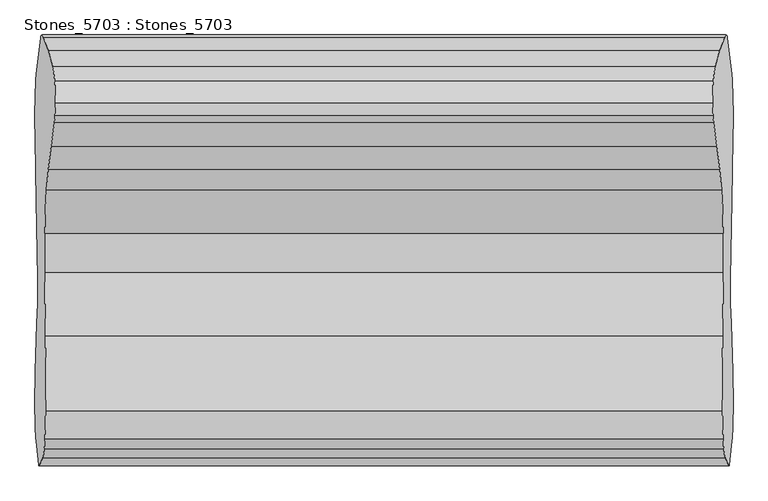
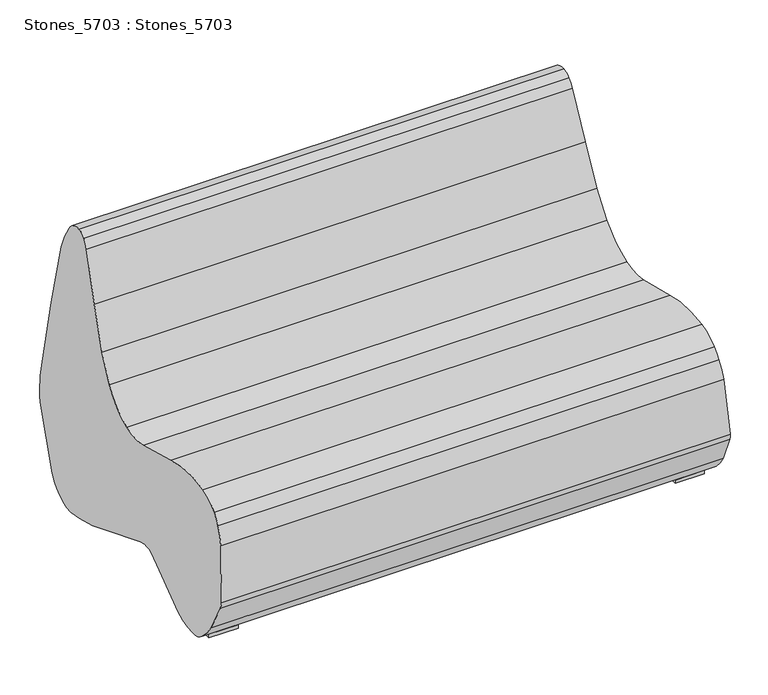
"""IFC4 building model written with IfcOpenShell, lengths in millimetres: furniture geometry, Stones_5703 : Stones_5703."""

from ifc_helpers import new_model, si_unit, frame, origin, origin_with_axes, place, context, project, spatial, polyline, ellipse_curve, outline, extrude, source, transform, mapped, element, save
from ifc_brep_helpers import plane_surface, cylinder_surface, revolved_surface, advanced_brep


def stones_5703_stones_5703_758f9897(model_context):
    return source(origin(), model_context, "Body", "SolidModel", [
        advanced_brep(
        [(695.3110174, -89.4815743, 39.7011175), (695.8233895, -98.5477213, 29.9244759), (-695.8233895, -98.5477213, 29.9244759), (-695.3110174, -89.4815743, 39.7011175), (694.2904864, -76.3119844, 59.1740089), (-694.2904864, -76.3119844, 59.1740089), (686.0286103, -5.8199936, 216.8199959), (-686.0286103, -5.8199936, 216.8199959), (684.5680628, 0.0, 244.6889021), (-684.5680628, 0.0, 244.6889021), (680.1478804, -3.4330027, 329.0310064), (-680.1478804, -3.4330027, 329.0310064), (670.5753916, -30.0880254, 511.6849737), (-670.5753916, -30.0880254, 511.6849737), (661.4227412, -61.5019873, 686.3279474), (-661.4227412, -61.5019873, 686.3279474), (657.7210736, -90.9500081, 756.9599733), (-657.7210736, -90.9500081, 756.9599733), (656.513597, -134.8483783, 780.0), (-656.513597, -134.8483783, 780.0), (657.0881683, -159.273999, 769.0365254), (-657.0881683, -159.273999, 769.0365254), (658.2353507, -173.6870001, 747.1469822), (-658.2353507, -173.6870001, 747.1469822), (664.8943365, -221.2533235, 620.0859628), (-664.8943365, -221.2533235, 620.0859628), (670.5063431, -267.1055076, 513.0024987), (-670.5063431, -267.1055076, 513.0024987), (674.0739166, -308.3042284, 444.9291411), (-674.0739166, -308.3042284, 444.9291411), (677.5681088, -395.6820072, 378.2559814), (-677.5681088, -395.6820072, 378.2559814), (677.8416238, -473.037008, 373.0370049), (-677.8416238, -473.037008, 373.0370049), (676.1026296, -599.6220026, 406.2189912), (-676.1026296, -599.6220026, 406.2189912), (675.7171703, -749.4260037, 413.5739928), (-675.7171703, -749.4260037, 413.5739928), (677.3106294, -805.643993, 383.168981), (-677.3106294, -805.643993, 383.168981), (678.6924678, -825.7290327, 356.8019341), (-678.6924678, -825.7290327, 356.8019341), (681.1027502, -843.0850216, 310.8110066), (-681.1027502, -843.0850216, 310.8110066), (688.9563767, -860.0, 160.9548844), (-688.9563767, -860.0, 160.9548844), (689.8386269, -857.073153, 144.1205484), (-689.8386269, -857.073153, 144.1205484), (693.9128025, -819.9294051, 66.3806469), (-693.9128025, -819.9294051, 66.3806469), (696.2895288, -783.4470012, 21.0300072), (-696.2895288, -783.4470012, 21.0300072), (697.1718138, -739.5440124, 4.1950079), (-697.1718138, -739.5440124, 4.1950079), (696.2520049, -670.8280033, 21.746007), (-696.2520049, -670.8280033, 21.746007), (693.0613141, -575.6870128, 82.6280143), (-693.0613141, -575.6870128, 82.6280143), (691.7174739, -534.5275066, 108.2700129), (-691.7174739, -534.5275066, 108.2700129), (691.4466827, -504.6660086, 113.4370167), (-691.4466827, -504.6660086, 113.4370167), (691.6770162, -484.561163, 109.0419911), (-691.6770162, -484.561163, 109.0419911), (694.7945968, -330.1980137, 49.5550103), (-694.7945968, -330.1980137, 49.5550103), (696.8694213, -206.3195893, 9.9649997), (-696.8694213, -206.3195893, 9.9649997), (697.200074, -168.3434362, 3.6557696), (-697.200074, -168.3434362, 3.6557696)],
        [
            (0, 1, ellipse_curve(frame((692.1171071, -165.0055036, 100.6445574), z_axis=(-0.998629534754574, 0.0, -0.05233595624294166), x_axis=(0.0523359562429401, 0.0, -0.9986295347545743)), 97.1793904, 97.0462094)),
            (1, 2),
            (2, 3, ellipse_curve(frame((-692.1171071, -165.0055036, 100.6445574), z_axis=(0.9986295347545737, 0.0, -0.05233595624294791), x_axis=(0.05233595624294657, 0.0, 0.9986295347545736)), 97.1793904, 97.0462094)),
            (3, 0),
            (4, 0, ellipse_curve(frame((690.7175279, -198.1002691, 127.3501177), z_axis=(-0.998629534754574, 0.0, -0.05233595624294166), x_axis=(0.0523359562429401, 0.0, -0.9986295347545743)), 139.7636305, 139.5720893)),
            (3, 5, ellipse_curve(frame((-690.7175279, -198.1002691, 127.3501177), z_axis=(0.9986295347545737, 0.0, -0.05233595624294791), x_axis=(0.05233595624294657, 0.0, 0.9986295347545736)), 139.7636305, 139.5720893)),
            (5, 4),
            (6, 4, ellipse_curve(frame((669.6555626, -916.0209114, 529.2363581), z_axis=(-0.998629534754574, 0.0, -0.05233595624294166), x_axis=(0.0523359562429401, 0.0, -0.9986295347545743)), 963.645793, 962.3251499)),
            (5, 7, ellipse_curve(frame((-669.6555626, -916.0209114, 529.2363581), z_axis=(0.9986295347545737, 0.0, -0.05233595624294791), x_axis=(0.05233595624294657, 0.0, 0.9986295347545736)), 963.645793, 962.3251499)),
            (7, 6),
            (8, 6, ellipse_curve(frame((684.0823172, -114.0171861, 253.9574813), z_axis=(-0.998629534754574, 0.0, -0.05233595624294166), x_axis=(0.0523359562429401, 0.0, -0.9986295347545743)), 114.5502793, 114.3932922)),
            (7, 9, ellipse_curve(frame((-684.0823172, -114.0171861, 253.9574813), z_axis=(0.9986295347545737, 0.0, -0.05233595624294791), x_axis=(0.05233595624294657, 0.0, 0.9986295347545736)), 114.5502793, 114.3932922)),
            (9, 8),
            (10, 8, ellipse_curve(frame((683.0929265, -346.2529959, 272.8361791), z_axis=(-0.998629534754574, 0.0, -0.05233595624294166), x_axis=(0.0523359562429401, 0.0, -0.9986295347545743)), 347.8719196, 347.3951732)),
            (9, 11, ellipse_curve(frame((-683.0929265, -346.2529959, 272.8361791), z_axis=(0.9986295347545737, 0.0, -0.05233595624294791), x_axis=(0.05233595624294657, 0.0, 0.9986295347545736)), 347.8719196, 347.3951732)),
            (11, 10),
            (12, 10, ellipse_curve(frame((635.6022598, 5181.9287288, 1179.012083), z_axis=(0.998629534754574, 0.0, 0.05233595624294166), x_axis=(-0.0523359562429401, 0.0, 0.9986295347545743)), 5261.7752024, 5254.5641224)),
            (11, 13, ellipse_curve(frame((-635.6022598, 5181.9287288, 1179.012083), z_axis=(-0.9986295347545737, 0.0, 0.05233595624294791), x_axis=(-0.05233595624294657, 0.0, -0.9986295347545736)), 5261.7752024, 5254.5641224)),
            (13, 12),
            (14, 12, ellipse_curve(frame((682.2440724, -1769.0618125, 289.0332815), z_axis=(-0.998629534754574, 0.0, -0.05233595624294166), x_axis=(0.0523359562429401, 0.0, -0.9986295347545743)), 1755.5755444, 1753.1695892)),
            (13, 15, ellipse_curve(frame((-682.2440724, -1769.0618125, 289.0332815), z_axis=(0.9986295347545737, 0.0, -0.05233595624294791), x_axis=(0.05233595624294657, 0.0, 0.9986295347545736)), 1755.5755444, 1753.1695892)),
            (15, 14),
            (16, 14, ellipse_curve(frame((664.1661541, -286.4896035, 633.9805107), z_axis=(-0.998629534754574, 0.0, -0.05233595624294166), x_axis=(0.0523359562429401, 0.0, -0.9986295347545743)), 231.3141543, 230.9971463)),
            (15, 17, ellipse_curve(frame((-664.1661541, -286.4896035, 633.9805107), z_axis=(0.9986295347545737, 0.0, -0.05233595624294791), x_axis=(0.05233595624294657, 0.0, 0.9986295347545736)), 231.3141543, 230.9971463)),
            (17, 16),
            (18, 16, ellipse_curve(frame((659.0984884, -132.7398879, 730.6773325), z_axis=(-0.998629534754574, 0.0, -0.05233595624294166), x_axis=(0.0523359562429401, 0.0, -0.9986295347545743)), 49.4354644, 49.3677148)),
            (17, 19, ellipse_curve(frame((-659.0984884, -132.7398879, 730.6773325), z_axis=(0.9986295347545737, 0.0, -0.05233595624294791), x_axis=(0.05233595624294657, 0.0, 0.9986295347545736)), 49.4354644, 49.3677148)),
            (19, 18),
            (20, 18, ellipse_curve(frame((658.4071949, -133.3037746, 743.8679997), z_axis=(-0.998629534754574, 0.0, -0.05233595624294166), x_axis=(0.0523359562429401, 0.0, -0.9986295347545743)), 36.2146312, 36.1650003)),
            (19, 21, ellipse_curve(frame((-658.4071949, -133.3037746, 743.8679997), z_axis=(0.9986295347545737, 0.0, -0.05233595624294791), x_axis=(0.05233595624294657, 0.0, 0.9986295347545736)), 36.2146312, 36.1650003)),
            (21, 20),
            (22, 20, ellipse_curve(frame((659.6530779, -108.7736674, 720.0951349), z_axis=(-0.998629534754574, 0.0, -0.05233595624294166), x_axis=(0.0523359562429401, 0.0, -0.9986295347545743)), 70.4210659, 70.3245562)),
            (21, 23, ellipse_curve(frame((-659.6530779, -108.7736674, 720.0951349), z_axis=(0.9986295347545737, 0.0, -0.05233595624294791), x_axis=(0.05233595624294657, 0.0, 0.9986295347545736)), 70.4210659, 70.3245562)),
            (23, 22),
            (24, 22, ellipse_curve(frame((695.5639623, 1535.4743364, 34.8746403), z_axis=(-0.998629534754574, 0.0, -0.05233595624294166), x_axis=(0.0523359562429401, 0.0, -0.9986295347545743)), 1854.17938, 1851.6382916)),
            (23, 25, ellipse_curve(frame((-695.5639623, 1535.4743364, 34.8746403), z_axis=(0.9986295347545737, 0.0, -0.05233595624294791), x_axis=(0.05233595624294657, 0.0, 0.9986295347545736)), 1854.17938, 1851.6382916)),
            (25, 24),
            (26, 24, ellipse_curve(frame((653.2587869, -887.7267892, 842.1054751), z_axis=(0.998629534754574, 0.0, 0.05233595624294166), x_axis=(-0.0523359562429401, 0.0, 0.9986295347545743)), 703.445039, 702.4809921)),
            (25, 27, ellipse_curve(frame((-653.2587869, -887.7267892, 842.1054751), z_axis=(-0.9986295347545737, 0.0, 0.05233595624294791), x_axis=(-0.05233595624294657, 0.0, -0.9986295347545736)), 703.445039, 702.4809921)),
            (27, 26),
            (28, 26, ellipse_curve(frame((653.2587869, -887.7267892, 842.1054751), z_axis=(0.998629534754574, 0.0, 0.05233595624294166), x_axis=(-0.0523359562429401, 0.0, 0.9986295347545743)), 703.445039, 702.4809921)),
            (27, 29, ellipse_curve(frame((-653.2587869, -887.7267892, 842.1054751), z_axis=(-0.9986295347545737, 0.0, 0.05233595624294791), x_axis=(-0.05233595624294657, 0.0, -0.9986295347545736)), 703.445039, 702.4809921)),
            (29, 28),
            (30, 28, ellipse_curve(frame((668.8673935, -453.2361586, 544.275519), z_axis=(0.998629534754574, 0.0, 0.05233595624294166), x_axis=(-0.0523359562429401, 0.0, 0.9986295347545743)), 175.9538792, 175.7127405)),
            (29, 31, ellipse_curve(frame((-668.8673935, -453.2361586, 544.275519), z_axis=(-0.9986295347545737, 0.0, 0.05233595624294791), x_axis=(-0.05233595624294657, 0.0, -0.9986295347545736)), 175.9538792, 175.7127405)),
            (31, 30),
            (32, 30, ellipse_curve(frame((670.2751071, -443.9243084, 517.4147448), z_axis=(0.998629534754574, 0.0, 0.05233595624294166), x_axis=(-0.0523359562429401, 0.0, 0.9986295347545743)), 147.4857996, 147.2836754)),
            (31, 33, ellipse_curve(frame((-670.2751071, -443.9243084, 517.4147448), z_axis=(-0.9986295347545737, 0.0, 0.05233595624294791), x_axis=(-0.05233595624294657, 0.0, -0.9986295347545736)), 147.4857996, 147.2836754)),
            (33, 32),
            (34, 32, ellipse_curve(frame((619.2373546, -247.5530042, 1491.2730764), z_axis=(0.998629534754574, 0.0, 0.05233595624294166), x_axis=(-0.0523359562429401, 0.0, 0.9986295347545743)), 1142.30865, 1140.7431557)),
            (33, 35, ellipse_curve(frame((-619.2373546, -247.5530042, 1491.2730764), z_axis=(-0.9986295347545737, 0.0, 0.05233595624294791), x_axis=(-0.05233595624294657, 0.0, -0.9986295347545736)), 1142.30865, 1140.7431557)),
            (35, 34),
            (36, 34, ellipse_curve(frame((690.391966, -688.091325, 133.5622105), z_axis=(-0.998629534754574, 0.0, -0.05233595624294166), x_axis=(0.0523359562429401, 0.0, -0.9986295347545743)), 287.0439394, 286.6505556)),
            (35, 37, ellipse_curve(frame((-690.391966, -688.091325, 133.5622105), z_axis=(0.9986295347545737, 0.0, -0.05233595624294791), x_axis=(0.05233595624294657, 0.0, 0.9986295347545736)), 287.0439394, 286.6505556)),
            (37, 36),
            (38, 36, ellipse_curve(frame((681.6340298, -724.6959368, 300.6735873), z_axis=(-0.998629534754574, 0.0, -0.05233595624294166), x_axis=(0.0523359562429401, 0.0, -0.9986295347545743)), 115.7357626, 115.5771508)),
            (37, 39, ellipse_curve(frame((-681.6340298, -724.6959368, 300.6735873), z_axis=(0.9986295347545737, 0.0, -0.05233595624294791), x_axis=(0.05233595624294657, 0.0, 0.9986295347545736)), 115.7357626, 115.5771508)),
            (39, 38),
            (40, 38, ellipse_curve(frame((681.6340298, -724.6959368, 300.6735873), z_axis=(-0.998629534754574, 0.0, -0.05233595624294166), x_axis=(0.0523359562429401, 0.0, -0.9986295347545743)), 115.7357626, 115.5771508)),
            (39, 41, ellipse_curve(frame((-681.6340298, -724.6959368, 300.6735873), z_axis=(0.9986295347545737, 0.0, -0.05233595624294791), x_axis=(0.05233595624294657, 0.0, 0.9986295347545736)), 115.7357626, 115.5771508)),
            (41, 40),
            (42, 40, ellipse_curve(frame((682.9854227, -678.2799832, 274.8874751), z_axis=(-0.998629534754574, 0.0, -0.05233595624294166), x_axis=(0.0523359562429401, 0.0, -0.9986295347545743)), 168.9063177, 168.6748374)),
            (41, 43, ellipse_curve(frame((-682.9854227, -678.2799832, 274.8874751), z_axis=(0.9986295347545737, 0.0, -0.05233595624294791), x_axis=(0.05233595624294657, 0.0, 0.9986295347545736)), 168.9063177, 168.6748374)),
            (43, 42),
            (44, 42, ellipse_curve(frame((689.350579, -121.0881092, 153.4330579), z_axis=(-0.998629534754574, 0.0, -0.05233595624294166), x_axis=(0.0523359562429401, 0.0, -0.9986295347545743)), 739.9642697, 738.9501744)),
            (43, 45, ellipse_curve(frame((-689.350579, -121.0881092, 153.4330579), z_axis=(0.9986295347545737, 0.0, -0.05233595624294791), x_axis=(0.05233595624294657, 0.0, 0.9986295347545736)), 739.9642697, 738.9501744)),
            (45, 44),
            (46, 44, ellipse_curve(frame((688.9815136, -812.8823189, 160.4752453), z_axis=(-0.998629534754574, 0.0, -0.05233595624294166), x_axis=(0.0523359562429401, 0.0, -0.9986295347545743)), 47.1847874, 47.1201223)),
            (45, 47, ellipse_curve(frame((-688.9815136, -812.8823189, 160.4752453), z_axis=(0.9986295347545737, 0.0, -0.05233595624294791), x_axis=(0.05233595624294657, 0.0, 0.9986295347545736)), 47.1847874, 47.1201223)),
            (47, 46),
            (48, 46, ellipse_curve(frame((681.2406951, -413.7831485, 308.1788605), z_axis=(-0.998629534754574, 0.0, -0.05233595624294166), x_axis=(0.0523359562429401, 0.0, -0.9986295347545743)), 473.3231464, 472.6744735)),
            (47, 49, ellipse_curve(frame((-681.2406951, -413.7831485, 308.1788605), z_axis=(0.9986295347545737, 0.0, -0.05233595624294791), x_axis=(0.05233595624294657, 0.0, 0.9986295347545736)), 473.3231464, 472.6744735)),
            (49, 48),
            (50, 48, ellipse_curve(frame((688.3398114, -641.3127469, 172.7196521), z_axis=(-0.998629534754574, 0.0, -0.05233595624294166), x_axis=(0.0523359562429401, 0.0, -0.9986295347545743)), 208.1599849, 207.8747089)),
            (49, 51, ellipse_curve(frame((-688.3398114, -641.3127469, 172.7196521), z_axis=(0.9986295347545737, 0.0, -0.05233595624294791), x_axis=(0.05233595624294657, 0.0, 0.9986295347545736)), 208.1599849, 207.8747089)),
            (51, 50),
            (52, 50, ellipse_curve(frame((693.9056535, -740.8253182, 66.5170575), z_axis=(-0.998629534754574, 0.0, -0.05233595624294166), x_axis=(0.0523359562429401, 0.0, -0.9986295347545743)), 62.4207651, 62.3352196)),
            (51, 53, ellipse_curve(frame((-693.9056535, -740.8253182, 66.5170575), z_axis=(0.9986295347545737, 0.0, -0.05233595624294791), x_axis=(0.05233595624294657, 0.0, 0.9986295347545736)), 62.4207651, 62.3352196)),
            (53, 52),
            (54, 52, ellipse_curve(frame((689.0046476, -742.7479694, 160.0338219), z_axis=(-0.998629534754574, 0.0, -0.05233595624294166), x_axis=(0.0523359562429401, 0.0, -0.9986295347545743)), 156.0856562, 155.8717463)),
            (53, 55, ellipse_curve(frame((-689.0046476, -742.7479694, 160.0338219), z_axis=(0.9986295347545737, 0.0, -0.05233595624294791), x_axis=(0.05233595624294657, 0.0, 0.9986295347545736)), 156.0856562, 155.8717463)),
            (55, 54),
            (56, 54, ellipse_curve(frame((666.9297795, -961.8104094, 581.2473981), z_axis=(-0.998629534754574, 0.0, -0.05233595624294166), x_axis=(0.0523359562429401, 0.0, -0.9986295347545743)), 631.5100276, 630.644565)),
            (55, 57, ellipse_curve(frame((-666.9297795, -961.8104094, 581.2473981), z_axis=(0.9986295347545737, 0.0, -0.05233595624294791), x_axis=(0.05233595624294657, 0.0, 0.9986295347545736)), 631.5100276, 630.644565)),
            (57, 56),
            (58, 56, ellipse_curve(frame((702.950332, -429.5654295, -106.0656895), z_axis=(0.998629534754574, 0.0, 0.05233595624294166), x_axis=(-0.0523359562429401, 0.0, 0.9986295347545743)), 238.9838219, 238.6563029)),
            (57, 59, ellipse_curve(frame((-702.950332, -429.5654295, -106.0656895), z_axis=(-0.9986295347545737, 0.0, 0.05233595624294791), x_axis=(-0.05233595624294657, 0.0, -0.9986295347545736)), 238.9838219, 238.6563029)),
            (59, 58),
            (60, 58, ellipse_curve(frame((694.2623904, -510.7472969, 59.710113), z_axis=(0.998629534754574, 0.0, 0.05233595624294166), x_axis=(-0.0523359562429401, 0.0, 0.9986295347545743)), 54.1441782, 54.0699755)),
            (59, 61, ellipse_curve(frame((-694.2623904, -510.7472969, 59.710113), z_axis=(-0.9986295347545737, 0.0, 0.05233595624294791), x_axis=(-0.05233595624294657, 0.0, -0.9986295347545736)), 54.1441782, 54.0699755)),
            (61, 60),
            (62, 60, ellipse_curve(frame((696.6830709, -515.9754163, 13.5207769), z_axis=(0.998629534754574, 0.0, 0.05233595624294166), x_axis=(-0.0523359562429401, 0.0, 0.9986295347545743)), 100.6922476, 100.5542524)),
            (61, 63, ellipse_curve(frame((-696.6830709, -515.9754163, 13.5207769), z_axis=(-0.9986295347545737, 0.0, 0.05233595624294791), x_axis=(-0.05233595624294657, 0.0, -0.9986295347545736)), 100.6922476, 100.5542524)),
            (63, 62),
            (64, 62, ellipse_curve(frame((773.9029037, -1000.549303, -1459.9214079), z_axis=(0.998629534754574, 0.0, 0.05233595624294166), x_axis=(-0.0523359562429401, 0.0, 0.9986295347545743)), 1653.8991091, 1651.6324979)),
            (63, 65, ellipse_curve(frame((-773.9029037, -1000.549303, -1459.9214079), z_axis=(-0.9986295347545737, 0.0, 0.05233595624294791), x_axis=(-0.05233595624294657, 0.0, -0.9986295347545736)), 1653.8991091, 1651.6324979)),
            (65, 64),
            (66, 64, ellipse_curve(frame((666.0602858, -86.7080041, 597.8383259), z_axis=(-0.998629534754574, 0.0, -0.05233595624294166), x_axis=(0.0523359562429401, 0.0, -0.9986295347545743)), 600.7416057, 599.9183102)),
            (65, 67, ellipse_curve(frame((-666.0602858, -86.7080041, 597.8383259), z_axis=(0.9986295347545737, 0.0, -0.05233595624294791), x_axis=(0.05233595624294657, 0.0, 0.9986295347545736)), 600.7416057, 599.9183102)),
            (67, 66),
            (68, 66, ellipse_curve(frame((669.4749065, -99.964728, 532.6834804), z_axis=(-0.998629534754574, 0.0, -0.05233595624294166), x_axis=(0.0523359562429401, 0.0, -0.9986295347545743)), 534.1605503, 533.4285018)),
            (67, 69, ellipse_curve(frame((-669.4749065, -99.964728, 532.6834804), z_axis=(0.9986295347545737, 0.0, -0.05233595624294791), x_axis=(0.05233595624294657, 0.0, 0.9986295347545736)), 534.1605503, 533.4285018)),
            (69, 68),
            (1, 68, ellipse_curve(frame((692.1171071, -165.0055036, 100.6445574), z_axis=(-0.998629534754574, 0.0, -0.05233595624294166), x_axis=(0.0523359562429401, 0.0, -0.9986295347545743)), 97.1793904, 97.0462094)),
            (69, 2, ellipse_curve(frame((-692.1171071, -165.0055036, 100.6445574), z_axis=(0.9986295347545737, 0.0, -0.05233595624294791), x_axis=(0.05233595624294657, 0.0, 0.9986295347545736)), 97.1793904, 97.0462094)),
        ],
        [
            cylinder_surface(frame((-700.0, -165.0055036, 100.6445574), z_axis=(1.0, 0.0, 0.0), x_axis=(0.0, 1.0, 0.0)), 97.0462094),
            cylinder_surface(frame((-700.0, -198.1002691, 127.3501177), z_axis=(1.0, 0.0, 0.0), x_axis=(0.0, 1.0, 0.0)), 139.5720893),
            cylinder_surface(frame((-700.0, -916.0209114, 529.2363581), z_axis=(1.0, 0.0, 0.0), x_axis=(0.0, 1.0, 0.0)), 962.3251499),
            cylinder_surface(frame((-700.0, -114.0171861, 253.9574813), z_axis=(1.0, 0.0, 0.0), x_axis=(0.0, 1.0, 0.0)), 114.3932922),
            cylinder_surface(frame((-700.0, -346.2529959, 272.8361791), z_axis=(1.0, 0.0, 0.0), x_axis=(0.0, 1.0, 0.0)), 347.3951732),
            revolved_surface(polyline([(-910.9822965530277, 10436.4928512, 1179.012083), (910.9822965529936, 10436.4928512, 1179.012083)]), (-700.0, 5181.9287288, 1179.012083), (-1.0, 0.0, 0.0)),
            cylinder_surface(frame((-700.0, -1769.0618125, 289.0332815), z_axis=(1.0, 0.0, 0.0), x_axis=(0.0, 1.0, 0.0)), 1753.1695892),
            cylinder_surface(frame((-700.0, -286.4896035, 633.9805107), z_axis=(1.0, 0.0, 0.0), x_axis=(0.0, 1.0, 0.0)), 230.9971463),
            cylinder_surface(frame((-700.0, -132.7398879, 730.6773325), z_axis=(1.0, 0.0, 0.0), x_axis=(0.0, 1.0, 0.0)), 49.3677148),
            cylinder_surface(frame((-700.0, -133.3037746, 743.8679997), z_axis=(1.0, 0.0, 0.0), x_axis=(0.0, 1.0, 0.0)), 36.1650003),
            cylinder_surface(frame((-700.0, -108.7736674, 720.0951349), z_axis=(1.0, 0.0, 0.0), x_axis=(0.0, 1.0, 0.0)), 70.3245562),
            cylinder_surface(frame((-700.0, 1535.4743364, 34.8746403), z_axis=(1.0, 0.0, 0.0), x_axis=(0.0, 1.0, 0.0)), 1851.6382916),
            revolved_surface(polyline([(-690.0742556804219, -185.2457971, 842.1054751), (690.0742556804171, -185.2457971, 842.1054751)]), (-700.0, -887.7267892, 842.1054751), (-1.0, 0.0, 0.0)),
            revolved_surface(polyline([(-678.076108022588, -277.5234181, 544.275519), (678.0761080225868, -277.5234181, 544.275519)]), (-700.0, -453.2361586, 544.275519), (-1.0, 0.0, 0.0)),
            revolved_surface(polyline([(-677.9939174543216, -296.640633, 517.4147448), (677.9939174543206, -296.640633, 517.4147448)]), (-700.0, -443.9243084, 517.4147448), (-1.0, 0.0, 0.0)),
            revolved_surface(polyline([(-679.0211701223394, 893.1901515, 1491.2730764), (679.0211701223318, 893.1901515, 1491.2730764)]), (-700.0, -247.5530042, 1491.2730764), (-1.0, 0.0, 0.0)),
            cylinder_surface(frame((-700.0, -688.091325, 133.5622105), z_axis=(1.0, 0.0, 0.0), x_axis=(0.0, 1.0, 0.0)), 286.6505556),
            cylinder_surface(frame((-700.0, -724.6959368, 300.6735873), z_axis=(1.0, 0.0, 0.0), x_axis=(0.0, 1.0, 0.0)), 115.5771508),
            cylinder_surface(frame((-700.0, -678.2799832, 274.8874751), z_axis=(1.0, 0.0, 0.0), x_axis=(0.0, 1.0, 0.0)), 168.6748374),
            cylinder_surface(frame((-700.0, -121.0881092, 153.4330579), z_axis=(1.0, 0.0, 0.0), x_axis=(0.0, 1.0, 0.0)), 738.9501744),
            cylinder_surface(frame((-700.0, -812.8823189, 160.4752453), z_axis=(1.0, 0.0, 0.0), x_axis=(0.0, 1.0, 0.0)), 47.1201223),
            cylinder_surface(frame((-700.0, -413.7831485, 308.1788605), z_axis=(1.0, 0.0, 0.0), x_axis=(0.0, 1.0, 0.0)), 472.6744735),
            cylinder_surface(frame((-700.0, -641.3127469, 172.7196521), z_axis=(1.0, 0.0, 0.0), x_axis=(0.0, 1.0, 0.0)), 207.8747089),
            cylinder_surface(frame((-700.0, -740.8253182, 66.5170575), z_axis=(1.0, 0.0, 0.0), x_axis=(0.0, 1.0, 0.0)), 62.3352196),
            cylinder_surface(frame((-700.0, -742.7479694, 160.0338219), z_axis=(1.0, 0.0, 0.0), x_axis=(0.0, 1.0, 0.0)), 155.8717463),
            cylinder_surface(frame((-700.0, -961.8104094, 581.2473981), z_axis=(1.0, 0.0, 0.0), x_axis=(0.0, 1.0, 0.0)), 630.644565),
            revolved_surface(polyline([(-715.4577788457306, -190.9091266, -106.0656895), (715.4577788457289, -190.9091266, -106.0656895)]), (-700.0, -429.5654295, -106.0656895), (-1.0, 0.0, 0.0)),
            revolved_surface(polyline([(-697.0960777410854, -456.6773214, 59.710113), (697.0960777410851, -456.6773214, 59.710113)]), (-700.0, -510.7472969, 59.710113), (-1.0, 0.0, 0.0)),
            revolved_surface(polyline([(-701.9528959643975, -415.4211639, 13.5207769), (701.9528959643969, -415.4211639, 13.5207769)]), (-700.0, -515.9754163, 13.5207769), (-1.0, 0.0, 0.0)),
            revolved_surface(polyline([(-860.461295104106, 651.0831949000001, -1459.9214079), (860.4612951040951, 651.0831949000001, -1459.9214079)]), (-700.0, -1000.549303, -1459.9214079), (-1.0, 0.0, 0.0)),
            cylinder_surface(frame((-700.0, -86.7080041, 597.8383259), z_axis=(1.0, 0.0, 0.0), x_axis=(0.0, 1.0, 0.0)), 599.9183102),
            cylinder_surface(frame((-700.0, -99.964728, 532.6834804), z_axis=(1.0, 0.0, 0.0), x_axis=(0.0, 1.0, 0.0)), 533.4285018),
            plane_surface(frame((654.9293098, -973.7922951, 810.2299995), z_axis=(0.998629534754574, 0.0, 0.05233595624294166), x_axis=(0.0, 1.0, 0.0))),
            plane_surface(frame((-700.0, -973.7922951, -49.7700005), z_axis=(-0.9986295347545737, 0.0, 0.05233595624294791), x_axis=(0.0, 1.0, 0.0))),
        ],
        [
            (0, [[1, 2, 3, 4]]),
            (1, [[5, -4, 6, 7]]),
            (2, [[8, -7, 9, 10]]),
            (3, [[11, -10, 12, 13]]),
            (4, [[14, -13, 15, 16]]),
            (5, [[17, -16, 18, 19]]),
            (6, [[20, -19, 21, 22]]),
            (7, [[23, -22, 24, 25]]),
            (8, [[26, -25, 27, 28]]),
            (9, [[29, -28, 30, 31]]),
            (10, [[32, -31, 33, 34]]),
            (11, [[35, -34, 36, 37]]),
            (12, [[38, -37, 39, 40]]),
            (12, [[41, -40, 42, 43]]),
            (13, [[44, -43, 45, 46]]),
            (14, [[47, -46, 48, 49]]),
            (15, [[50, -49, 51, 52]]),
            (16, [[53, -52, 54, 55]]),
            (17, [[56, -55, 57, 58]]),
            (17, [[59, -58, 60, 61]]),
            (18, [[62, -61, 63, 64]]),
            (19, [[65, -64, 66, 67]]),
            (20, [[68, -67, 69, 70]]),
            (21, [[71, -70, 72, 73]]),
            (22, [[74, -73, 75, 76]]),
            (23, [[77, -76, 78, 79]]),
            (24, [[80, -79, 81, 82]]),
            (25, [[83, -82, 84, 85]]),
            (26, [[86, -85, 87, 88]]),
            (27, [[89, -88, 90, 91]]),
            (28, [[92, -91, 93, 94]]),
            (29, [[95, -94, 96, 97]]),
            (30, [[98, -97, 99, 100]]),
            (31, [[101, -100, 102, 103]]),
            (0, [[104, -103, 105, -2]]),
            (32, [[-1, -5, -8, -11, -14, -17, -20, -23, -26, -29, -32, -35, -38, -41, -44, -47, -50, -53, -56, -59, -62, -65, -68, -71, -74, -77, -80, -83, -86, -89, -92, -95, -98, -101, -104]]),
            (33, [[-3, -105, -102, -99, -96, -93, -90, -87, -84, -81, -78, -75, -72, -69, -66, -63, -60, -57, -54, -51, -48, -45, -42, -39, -36, -33, -30, -27, -24, -21, -18, -15, -12, -9, -6]]),
        ],
    ),
        extrude(outline(polyline([(-591.5960021, -193.5539924), (-671.2620151, -193.5539924), (-671.2620151, -136.2250062), (-591.5960021, -136.2250062), (-591.5960021, -193.5539924)])), origin_with_axes(), (0.0, 0.0, 1.0), 10.0),
        extrude(outline(polyline([(591.5960021, -193.5539924), (591.5960021, -136.2250062), (671.2620151, -136.2250062), (671.2620151, -193.5539924), (591.5960021, -193.5539924)])), origin_with_axes(), (0.0, 0.0, 1.0), 10.0),
        extrude(outline(polyline([(-591.5960021, -770.6035083), (-671.2620151, -770.6035083), (-671.2620151, -713.2745221), (-591.5960021, -713.2745221), (-591.5960021, -770.6035083)])), origin_with_axes(), (0.0, 0.0, 1.0), 10.0),
        extrude(outline(polyline([(591.5960021, -770.6035083), (591.5960021, -713.2745221), (671.2620151, -713.2745221), (671.2620151, -770.6035083), (591.5960021, -770.6035083)])), origin_with_axes(), (0.0, 0.0, 1.0), 10.0),
    ])


if __name__ == "__main__":
    model = new_model("IFC4")
    model_context = context("Model", 3, world=origin())
    ifc_project = project(units=[si_unit("LENGTHUNIT", "METRE", prefix="MILLI")], contexts=[model_context])
    site = spatial("IfcSite", under=ifc_project)
    building = spatial("IfcBuilding", under=site)
    placement = place(None, origin())
    stones_5703_stones_5703_shape = stones_5703_stones_5703_758f9897(model_context)
    element("IfcFurniture", 1, ObjectType="Stones_5703 : Stones_5703", at=placement, inside=building, context=model_context, shape_type="MappedRepresentation", body=[
        mapped(stones_5703_stones_5703_shape, transform((0.0, 0.0, 0.0), x_axis=(1.0, 0.0, 0.0), y_axis=(0.0, 1.0, 0.0), z_axis=(0.0, 0.0, 1.0))),
    ])
    save(model, "model.ifc")
